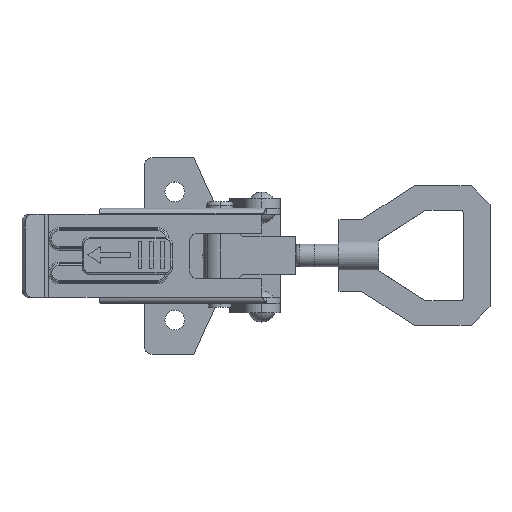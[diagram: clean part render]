
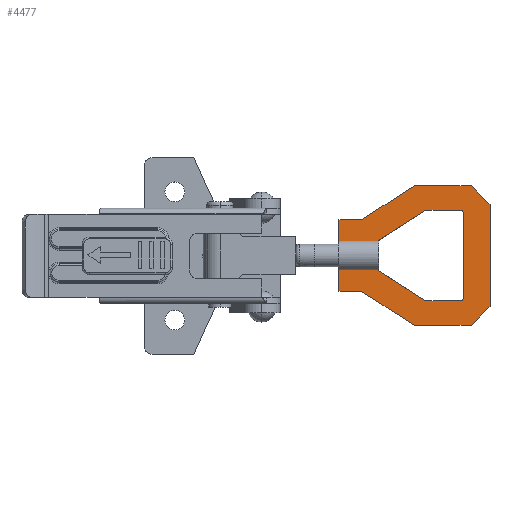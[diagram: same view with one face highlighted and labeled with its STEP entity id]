
A CAD part, top view. The second image highlights one B-rep face of the part: STEP entity #4477.
In plain terms, the highlighted planar face has unit normal (0, 0, 1) as drawn and (0, 0, -1) by its records, which use the part's own axes.
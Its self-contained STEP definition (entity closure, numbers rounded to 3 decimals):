
#3601=CARTESIAN_POINT('',(11.707,13.403,-1.25));
#3602=VERTEX_POINT('',#3601);
#3611=CARTESIAN_POINT('',(12.0,12.696,-1.25));
#3612=VERTEX_POINT('',#3611);
#3613=CARTESIAN_POINT('',(11.0,12.696,-1.25));
#3614=DIRECTION('',(0.0,0.0,-1.));
#3615=DIRECTION('',(0.707,0.707,0.0));
#3616=AXIS2_PLACEMENT_3D('',#3613,#3614,#3615);
#3617=CIRCLE('',#3616,1.);
#3618=EDGE_CURVE('',#3602,#3612,#3617,.T.);
#3643=CARTESIAN_POINT('',(-11.707,13.403,-1.25));
#3644=VERTEX_POINT('',#3643);
#3653=CARTESIAN_POINT('',(-11.0,13.696,-1.25));
#3654=VERTEX_POINT('',#3653);
#3655=CARTESIAN_POINT('',(-11.0,12.696,-1.25));
#3656=DIRECTION('',(0.0,0.0,-1.));
#3657=DIRECTION('',(-0.707,0.707,0.0));
#3658=AXIS2_PLACEMENT_3D('',#3655,#3656,#3657);
#3659=CIRCLE('',#3658,1.);
#3660=EDGE_CURVE('',#3644,#3654,#3659,.T.);
#3797=CARTESIAN_POINT('',(3.827,-9.018,-1.25));
#3798=VERTEX_POINT('',#3797);
#3806=CARTESIAN_POINT('',(3.827,-19.304,-1.25));
#3807=VERTEX_POINT('',#3806);
#3808=CARTESIAN_POINT('',(3.827,-19.304,-1.25));
#3809=DIRECTION('',(0.0,1.0,0.0));
#3810=VECTOR('',#3809,10.286);
#3811=LINE('',#3808,#3810);
#3812=EDGE_CURVE('',#3807,#3798,#3811,.T.);
#3814=CARTESIAN_POINT('',(-3.819,-19.304,-1.25));
#3815=VERTEX_POINT('',#3814);
#3823=CARTESIAN_POINT('',(-3.819,-9.03,-1.25));
#3824=VERTEX_POINT('',#3823);
#3825=CARTESIAN_POINT('',(-3.819,-9.03,-1.25));
#3826=DIRECTION('',(0.0,-1.0,0.0));
#3827=VECTOR('',#3826,10.274);
#3828=LINE('',#3825,#3827);
#3829=EDGE_CURVE('',#3824,#3815,#3828,.T.);
#3906=CARTESIAN_POINT('',(-9.5,-19.304,-1.25));
#3907=VERTEX_POINT('',#3906);
#3914=CARTESIAN_POINT('',(-3.819,-19.304,-1.25));
#3915=DIRECTION('',(-1.0,0.0,0.0));
#3916=VECTOR('',#3915,5.681);
#3917=LINE('',#3914,#3916);
#3918=EDGE_CURVE('',#3815,#3907,#3917,.T.);
#3921=CARTESIAN_POINT('',(9.5,-19.304,-1.25));
#3922=VERTEX_POINT('',#3921);
#3923=CARTESIAN_POINT('',(9.5,-19.304,-1.25));
#3924=DIRECTION('',(-1.0,0.0,0.0));
#3925=VECTOR('',#3924,5.673);
#3926=LINE('',#3923,#3925);
#3927=EDGE_CURVE('',#3922,#3807,#3926,.T.);
#4094=CARTESIAN_POINT('',(-12.0,3.696,-1.25));
#4095=VERTEX_POINT('',#4094);
#4096=CARTESIAN_POINT('',(-12.0,3.696,-1.25));
#4097=DIRECTION('',(0.541,-0.841,0.0));
#4098=VECTOR('',#4097,15.129);
#4099=LINE('',#4096,#4098);
#4100=EDGE_CURVE('',#4095,#3824,#4099,.T.);
#4119=CARTESIAN_POINT('',(-12.0,12.696,-1.25));
#4120=VERTEX_POINT('',#4119);
#4127=CARTESIAN_POINT('',(-11.0,12.696,-1.25));
#4128=DIRECTION('',(0.0,0.0,-1.));
#4129=DIRECTION('',(-0.707,0.707,0.0));
#4130=AXIS2_PLACEMENT_3D('',#4127,#4128,#4129);
#4131=CIRCLE('',#4130,1.);
#4132=EDGE_CURVE('',#4120,#3644,#4131,.T.);
#4143=CARTESIAN_POINT('',(11.0,13.696,-1.25));
#4144=VERTEX_POINT('',#4143);
#4145=CARTESIAN_POINT('',(11.0,13.696,-1.25));
#4146=DIRECTION('',(-1.0,0.0,0.0));
#4147=VECTOR('',#4146,22.0);
#4148=LINE('',#4145,#4147);
#4149=EDGE_CURVE('',#4144,#3654,#4148,.T.);
#4169=CARTESIAN_POINT('',(11.0,12.696,-1.25));
#4170=DIRECTION('',(0.0,0.0,-1.));
#4171=DIRECTION('',(0.707,0.707,0.0));
#4172=AXIS2_PLACEMENT_3D('',#4169,#4170,#4171);
#4173=CIRCLE('',#4172,1.);
#4174=EDGE_CURVE('',#4144,#3602,#4173,.T.);
#4185=CARTESIAN_POINT('',(12.0,3.696,-1.25));
#4186=VERTEX_POINT('',#4185);
#4187=CARTESIAN_POINT('',(12.0,3.696,-1.25));
#4188=DIRECTION('',(0.0,1.0,0.0));
#4189=VECTOR('',#4188,9.0);
#4190=LINE('',#4187,#4189);
#4191=EDGE_CURVE('',#4186,#3612,#4190,.T.);
#4209=CARTESIAN_POINT('',(-18.5,0.696,-1.25));
#4210=VERTEX_POINT('',#4209);
#4217=CARTESIAN_POINT('',(-9.5,-13.304,-1.25));
#4218=VERTEX_POINT('',#4217);
#4219=CARTESIAN_POINT('',(-9.5,-13.304,-1.25));
#4220=DIRECTION('',(-0.541,0.841,0.0));
#4221=VECTOR('',#4220,16.643);
#4222=LINE('',#4219,#4221);
#4223=EDGE_CURVE('',#4218,#4210,#4222,.T.);
#4240=CARTESIAN_POINT('',(-18.5,15.696,-1.25));
#4241=VERTEX_POINT('',#4240);
#4248=CARTESIAN_POINT('',(-18.5,0.696,-1.25));
#4249=DIRECTION('',(0.0,1.0,0.0));
#4250=VECTOR('',#4249,15.0);
#4251=LINE('',#4248,#4250);
#4252=EDGE_CURVE('',#4210,#4241,#4251,.T.);
#4264=CARTESIAN_POINT('',(-13.5,20.696,-1.25));
#4265=VERTEX_POINT('',#4264);
#4272=CARTESIAN_POINT('',(-18.5,15.696,-1.25));
#4273=DIRECTION('',(0.707,0.707,0.0));
#4274=VECTOR('',#4273,7.071);
#4275=LINE('',#4272,#4274);
#4276=EDGE_CURVE('',#4241,#4265,#4275,.T.);
#4288=CARTESIAN_POINT('',(13.5,20.696,-1.25));
#4289=VERTEX_POINT('',#4288);
#4296=CARTESIAN_POINT('',(-13.5,20.696,-1.25));
#4297=DIRECTION('',(1.0,0.0,0.0));
#4298=VECTOR('',#4297,27.0);
#4299=LINE('',#4296,#4298);
#4300=EDGE_CURVE('',#4265,#4289,#4299,.T.);
#4312=CARTESIAN_POINT('',(18.5,15.696,-1.25));
#4313=VERTEX_POINT('',#4312);
#4320=CARTESIAN_POINT('',(13.5,20.696,-1.25));
#4321=DIRECTION('',(0.707,-0.707,0.0));
#4322=VECTOR('',#4321,7.071);
#4323=LINE('',#4320,#4322);
#4324=EDGE_CURVE('',#4289,#4313,#4323,.T.);
#4336=CARTESIAN_POINT('',(18.5,0.696,-1.25));
#4337=VERTEX_POINT('',#4336);
#4344=CARTESIAN_POINT('',(18.5,15.696,-1.25));
#4345=DIRECTION('',(0.0,-1.0,0.0));
#4346=VECTOR('',#4345,15.0);
#4347=LINE('',#4344,#4346);
#4348=EDGE_CURVE('',#4313,#4337,#4347,.T.);
#4360=CARTESIAN_POINT('',(9.5,-13.304,-1.25));
#4361=VERTEX_POINT('',#4360);
#4368=CARTESIAN_POINT('',(18.5,0.696,-1.25));
#4369=DIRECTION('',(-0.541,-0.841,0.0));
#4370=VECTOR('',#4369,16.643);
#4371=LINE('',#4368,#4370);
#4372=EDGE_CURVE('',#4337,#4361,#4371,.T.);
#4385=CARTESIAN_POINT('',(9.5,-13.304,-1.25));
#4386=DIRECTION('',(0.0,-1.0,0.0));
#4387=VECTOR('',#4386,6.0);
#4388=LINE('',#4385,#4387);
#4389=EDGE_CURVE('',#4361,#3922,#4388,.T.);
#4403=CARTESIAN_POINT('',(3.827,-9.018,-1.25));
#4404=DIRECTION('',(0.541,0.841,0.0));
#4405=VECTOR('',#4404,15.115);
#4406=LINE('',#4403,#4405);
#4407=EDGE_CURVE('',#3798,#4186,#4406,.T.);
#4422=CARTESIAN_POINT('',(-12.0,12.696,-1.25));
#4423=DIRECTION('',(0.0,-1.0,0.0));
#4424=VECTOR('',#4423,9.0);
#4425=LINE('',#4422,#4424);
#4426=EDGE_CURVE('',#4120,#4095,#4425,.T.);
#4438=CARTESIAN_POINT('',(-9.5,-19.304,-1.25));
#4439=DIRECTION('',(0.0,1.0,0.0));
#4440=VECTOR('',#4439,6.0);
#4441=LINE('',#4438,#4440);
#4442=EDGE_CURVE('',#3907,#4218,#4441,.T.);
#4448=CARTESIAN_POINT('',(0.,2.479,-1.25));
#4449=DIRECTION('',(0.0,0.0,1.0));
#4450=DIRECTION('',(1.0,0.0,0.0));
#4451=AXIS2_PLACEMENT_3D('',#4448,#4449,#4450);
#4452=PLANE('',#4451);
#4453=ORIENTED_EDGE('',*,*,#3812,.T.);
#4454=ORIENTED_EDGE('',*,*,#4407,.T.);
#4455=ORIENTED_EDGE('',*,*,#4191,.T.);
#4456=ORIENTED_EDGE('',*,*,#3618,.F.);
#4457=ORIENTED_EDGE('',*,*,#4174,.F.);
#4458=ORIENTED_EDGE('',*,*,#4149,.T.);
#4459=ORIENTED_EDGE('',*,*,#3660,.F.);
#4460=ORIENTED_EDGE('',*,*,#4132,.F.);
#4461=ORIENTED_EDGE('',*,*,#4426,.T.);
#4462=ORIENTED_EDGE('',*,*,#4100,.T.);
#4463=ORIENTED_EDGE('',*,*,#3829,.T.);
#4464=ORIENTED_EDGE('',*,*,#3918,.T.);
#4465=ORIENTED_EDGE('',*,*,#4442,.T.);
#4466=ORIENTED_EDGE('',*,*,#4223,.T.);
#4467=ORIENTED_EDGE('',*,*,#4252,.T.);
#4468=ORIENTED_EDGE('',*,*,#4276,.T.);
#4469=ORIENTED_EDGE('',*,*,#4300,.T.);
#4470=ORIENTED_EDGE('',*,*,#4324,.T.);
#4471=ORIENTED_EDGE('',*,*,#4348,.T.);
#4472=ORIENTED_EDGE('',*,*,#4372,.T.);
#4473=ORIENTED_EDGE('',*,*,#4389,.T.);
#4474=ORIENTED_EDGE('',*,*,#3927,.T.);
#4475=EDGE_LOOP('',(#4453,#4454,#4455,#4456,#4457,#4458,#4459,#4460,#4461,#4462,#4463,#4464,#4465,#4466,#4467,#4468,#4469,#4470,#4471,#4472,#4473,#4474));
#4476=FACE_OUTER_BOUND('',#4475,.T.);
#4477=ADVANCED_FACE('',(#4476),#4452,.F.);
